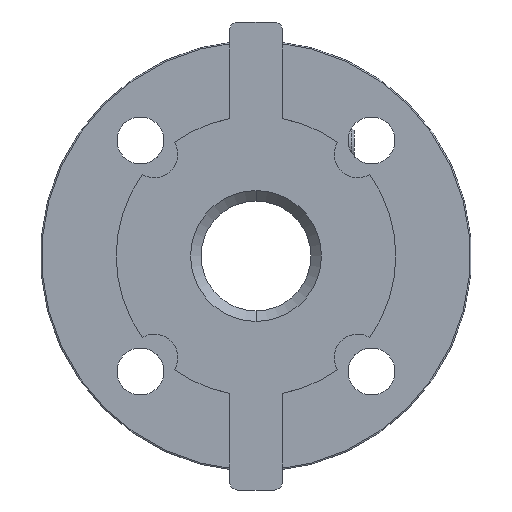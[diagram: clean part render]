
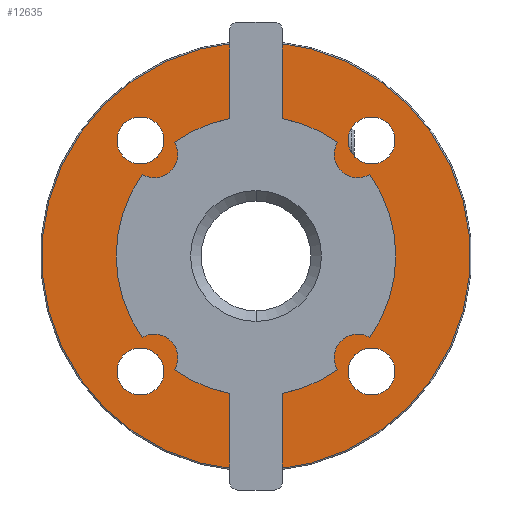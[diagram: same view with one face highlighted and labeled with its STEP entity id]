
A CAD part, front view. The second image highlights one B-rep face of the part: STEP entity #12635.
In plain terms, the highlighted planar face has unit normal (0, -1, 0).
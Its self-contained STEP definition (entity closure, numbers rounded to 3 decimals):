
#467 = PLANE ( 'NONE',  #16696 ) ;
#475 = CARTESIAN_POINT ( 'NONE',  ( -12.374, 21.2, 129.047 ) ) ;
#476 = DIRECTION ( 'NONE',  ( 0., 1., 0. ) ) ;
#477 = DIRECTION ( 'NONE',  ( 0.707, 0., 0.707 ) ) ;
#1621 = CARTESIAN_POINT ( 'NONE',  ( 44.194, 21.2, 44.194 ) ) ;
#1622 = DIRECTION ( 'NONE',  ( 0., -1., 0. ) ) ;
#1623 = DIRECTION ( 'NONE',  ( 0.707, 0., 0.707 ) ) ;
#1628 = CARTESIAN_POINT ( 'NONE',  ( -44.194, 21.2, 44.194 ) ) ;
#1629 = DIRECTION ( 'NONE',  ( 0., -1., 0. ) ) ;
#1630 = DIRECTION ( 'NONE',  ( 0.707, 0., 0.707 ) ) ;
#1635 = CARTESIAN_POINT ( 'NONE',  ( -44.194, 21.2, -44.194 ) ) ;
#1636 = DIRECTION ( 'NONE',  ( 0., -1., 0. ) ) ;
#1637 = DIRECTION ( 'NONE',  ( 0.707, 0., 0.707 ) ) ;
#1643 = CARTESIAN_POINT ( 'NONE',  ( 44.194, 21.2, -44.194 ) ) ;
#1644 = DIRECTION ( 'NONE',  ( 0., -1., 0. ) ) ;
#1645 = DIRECTION ( 'NONE',  ( 0.707, 0., 0.707 ) ) ;
#3908 = CARTESIAN_POINT ( 'NONE',  ( 44.194, 21.2, -44.194 ) ) ;
#3909 = DIRECTION ( 'NONE',  ( 0., -1., 0. ) ) ;
#3910 = DIRECTION ( 'NONE',  ( 0.707, 0., 0.707 ) ) ;
#3914 = CARTESIAN_POINT ( 'NONE',  ( -44.194, 21.2, -44.194 ) ) ;
#3915 = DIRECTION ( 'NONE',  ( 0., -1., 0. ) ) ;
#3916 = DIRECTION ( 'NONE',  ( 0.707, 0., 0.707 ) ) ;
#3920 = CARTESIAN_POINT ( 'NONE',  ( -44.194, 21.2, 44.194 ) ) ;
#3921 = DIRECTION ( 'NONE',  ( 0., -1., 0. ) ) ;
#3922 = DIRECTION ( 'NONE',  ( 0.707, 0., 0.707 ) ) ;
#3926 = CARTESIAN_POINT ( 'NONE',  ( 44.194, 21.2, 44.194 ) ) ;
#3927 = DIRECTION ( 'NONE',  ( 0., -1., 0. ) ) ;
#3928 = DIRECTION ( 'NONE',  ( 0.707, 0., 0.707 ) ) ;
#3939 = CARTESIAN_POINT ( 'NONE',  ( 0., 21.2, 0. ) ) ;
#3940 = DIRECTION ( 'NONE',  ( 0., 1., 0. ) ) ;
#3941 = DIRECTION ( 'NONE',  ( 0.707, 0., 0.707 ) ) ;
#3943 = CARTESIAN_POINT ( 'NONE',  ( 0., 21.2, 0. ) ) ;
#3944 = DIRECTION ( 'NONE',  ( 0., -1., 0. ) ) ;
#3945 = DIRECTION ( 'NONE',  ( 0.707, 0., 0.707 ) ) ;
#4135 = CARTESIAN_POINT ( 'NONE',  ( -37.83, 21.2, -37.83 ) ) ;
#4142 = CARTESIAN_POINT ( 'NONE',  ( -50.558, 21.2, 37.83 ) ) ;
#4162 = CARTESIAN_POINT ( 'NONE',  ( 50.558, 21.2, 50.558 ) ) ;
#4212 = CARTESIAN_POINT ( 'NONE',  ( -57.983, 21.2, -57.983 ) ) ;
#4216 = CARTESIAN_POINT ( 'NONE',  ( 57.983, 21.2, 57.983 ) ) ;
#4217 = CARTESIAN_POINT ( 'NONE',  ( 32.328, 21.2, 32.328 ) ) ;
#5472 = AXIS2_PLACEMENT_3D ( 'NONE', #1621, #1622, #1623 ) ;
#5473 = AXIS2_PLACEMENT_3D ( 'NONE', #1628, #1629, #1630 ) ;
#5474 = AXIS2_PLACEMENT_3D ( 'NONE', #1635, #1636, #1637 ) ;
#5475 = AXIS2_PLACEMENT_3D ( 'NONE', #1643, #1644, #1645 ) ;
#5594 = AXIS2_PLACEMENT_3D ( 'NONE', #3908, #3909, #3910 ) ;
#5596 = AXIS2_PLACEMENT_3D ( 'NONE', #3914, #3915, #3916 ) ;
#5598 = AXIS2_PLACEMENT_3D ( 'NONE', #3920, #3921, #3922 ) ;
#5600 = AXIS2_PLACEMENT_3D ( 'NONE', #3926, #3927, #3928 ) ;
#5604 = AXIS2_PLACEMENT_3D ( 'NONE', #3939, #3940, #3941 ) ;
#5605 = AXIS2_PLACEMENT_3D ( 'NONE', #3943, #3944, #3945 ) ;
#5645 = AXIS2_PLACEMENT_3D ( 'NONE', #18408, #18409, #18410 ) ;
#5646 = AXIS2_PLACEMENT_3D ( 'NONE', #18411, #18412, #18413 ) ;
#6043 = CIRCLE ( 'NONE', #5472, 9. ) ;
#6053 = CIRCLE ( 'NONE', #5473, 9. ) ;
#6063 = CIRCLE ( 'NONE', #5474, 9. ) ;
#6073 = CIRCLE ( 'NONE', #5475, 9. ) ;
#6182 = VERTEX_POINT ( 'NONE', #12259 ) ;
#6206 = VERTEX_POINT ( 'NONE', #12271 ) ;
#6218 = VERTEX_POINT ( 'NONE', #12277 ) ;
#6226 = VERTEX_POINT ( 'NONE', #12281 ) ;
#6268 = VERTEX_POINT ( 'NONE', #12302 ) ;
#6276 = VERTEX_POINT ( 'NONE', #12306 ) ;
#6481 = FACE_BOUND ( 'NONE', #7819, .T. ) ;
#6483 = FACE_BOUND ( 'NONE', #7816, .T. ) ;
#6485 = FACE_OUTER_BOUND ( 'NONE', #7817, .T. ) ;
#6487 = FACE_BOUND ( 'NONE', #7820, .T. ) ;
#6489 = FACE_BOUND ( 'NONE', #7808, .T. ) ;
#6491 = FACE_BOUND ( 'NONE', #7818, .T. ) ;
#6507 = CIRCLE ( 'NONE', #5594, 9. ) ;
#6509 = CIRCLE ( 'NONE', #5596, 9. ) ;
#6511 = CIRCLE ( 'NONE', #5598, 9. ) ;
#6515 = CIRCLE ( 'NONE', #5600, 9. ) ;
#6520 = CIRCLE ( 'NONE', #5605, 82. ) ;
#6521 = CIRCLE ( 'NONE', #5604, 45.719 ) ;
#6675 = CIRCLE ( 'NONE', #5645, 45.719 ) ;
#6679 = CIRCLE ( 'NONE', #5646, 82. ) ;
#7808 = EDGE_LOOP ( 'NONE', ( #15428, #15429 ) ) ;
#7816 = EDGE_LOOP ( 'NONE', ( #15424, #15425 ) ) ;
#7817 = EDGE_LOOP ( 'NONE', ( #15426, #15427 ) ) ;
#7818 = EDGE_LOOP ( 'NONE', ( #15432, #15433 ) ) ;
#7819 = EDGE_LOOP ( 'NONE', ( #15430, #15431 ) ) ;
#7820 = EDGE_LOOP ( 'NONE', ( #15434, #15435 ) ) ;
#12259 = CARTESIAN_POINT ( 'NONE',  ( -37.83, 21.2, 50.558 ) ) ;
#12271 = CARTESIAN_POINT ( 'NONE',  ( -50.558, 21.2, -50.558 ) ) ;
#12277 = CARTESIAN_POINT ( 'NONE',  ( 50.558, 21.2, -37.83 ) ) ;
#12281 = CARTESIAN_POINT ( 'NONE',  ( 37.83, 21.2, -50.558 ) ) ;
#12302 = CARTESIAN_POINT ( 'NONE',  ( -32.328, 21.2, -32.328 ) ) ;
#12306 = CARTESIAN_POINT ( 'NONE',  ( 37.83, 21.2, 37.83 ) ) ;
#12635 = ADVANCED_FACE ( 'NONE', ( #6483, #6485, #6489, #6481, #6491, #6487 ), #467, .F. ) ;
#13464 = EDGE_CURVE ( 'NONE', #14941, #6276, #6043, .T. ) ;
#13467 = EDGE_CURVE ( 'NONE', #6182, #14920, #6053, .T. ) ;
#13470 = EDGE_CURVE ( 'NONE', #14919, #6206, #6063, .T. ) ;
#13473 = EDGE_CURVE ( 'NONE', #6218, #6226, #6073, .T. ) ;
#14132 = EDGE_CURVE ( 'NONE', #6226, #6218, #6507, .T. ) ;
#14134 = EDGE_CURVE ( 'NONE', #6206, #14919, #6509, .T. ) ;
#14136 = EDGE_CURVE ( 'NONE', #14920, #6182, #6511, .T. ) ;
#14138 = EDGE_CURVE ( 'NONE', #6276, #14941, #6515, .T. ) ;
#14142 = EDGE_CURVE ( 'NONE', #14996, #6268, #6521, .T. ) ;
#14143 = EDGE_CURVE ( 'NONE', #14995, #14991, #6520, .T. ) ;
#14919 = VERTEX_POINT ( 'NONE', #4135 ) ;
#14920 = VERTEX_POINT ( 'NONE', #4142 ) ;
#14941 = VERTEX_POINT ( 'NONE', #4162 ) ;
#14991 = VERTEX_POINT ( 'NONE', #4212 ) ;
#14995 = VERTEX_POINT ( 'NONE', #4216 ) ;
#14996 = VERTEX_POINT ( 'NONE', #4217 ) ;
#15424 = ORIENTED_EDGE ( 'NONE', *, *, #16545, .T. ) ;
#15425 = ORIENTED_EDGE ( 'NONE', *, *, #14142, .T. ) ;
#15426 = ORIENTED_EDGE ( 'NONE', *, *, #14143, .T. ) ;
#15427 = ORIENTED_EDGE ( 'NONE', *, *, #16547, .T. ) ;
#15428 = ORIENTED_EDGE ( 'NONE', *, *, #14134, .F. ) ;
#15429 = ORIENTED_EDGE ( 'NONE', *, *, #13470, .F. ) ;
#15430 = ORIENTED_EDGE ( 'NONE', *, *, #14138, .F. ) ;
#15431 = ORIENTED_EDGE ( 'NONE', *, *, #13464, .F. ) ;
#15432 = ORIENTED_EDGE ( 'NONE', *, *, #14136, .F. ) ;
#15433 = ORIENTED_EDGE ( 'NONE', *, *, #13467, .F. ) ;
#15434 = ORIENTED_EDGE ( 'NONE', *, *, #14132, .F. ) ;
#15435 = ORIENTED_EDGE ( 'NONE', *, *, #13473, .F. ) ;
#16545 = EDGE_CURVE ( 'NONE', #6268, #14996, #6675, .T. ) ;
#16547 = EDGE_CURVE ( 'NONE', #14991, #14995, #6679, .T. ) ;
#16696 = AXIS2_PLACEMENT_3D ( 'NONE', #475, #476, #477 ) ;
#18408 = CARTESIAN_POINT ( 'NONE',  ( 0., 21.2, 0. ) ) ;
#18409 = DIRECTION ( 'NONE',  ( 0., 1., 0. ) ) ;
#18410 = DIRECTION ( 'NONE',  ( 0.707, 0., 0.707 ) ) ;
#18411 = CARTESIAN_POINT ( 'NONE',  ( 0., 21.2, 0. ) ) ;
#18412 = DIRECTION ( 'NONE',  ( 0., -1., 0. ) ) ;
#18413 = DIRECTION ( 'NONE',  ( 0.707, 0., 0.707 ) ) ;
